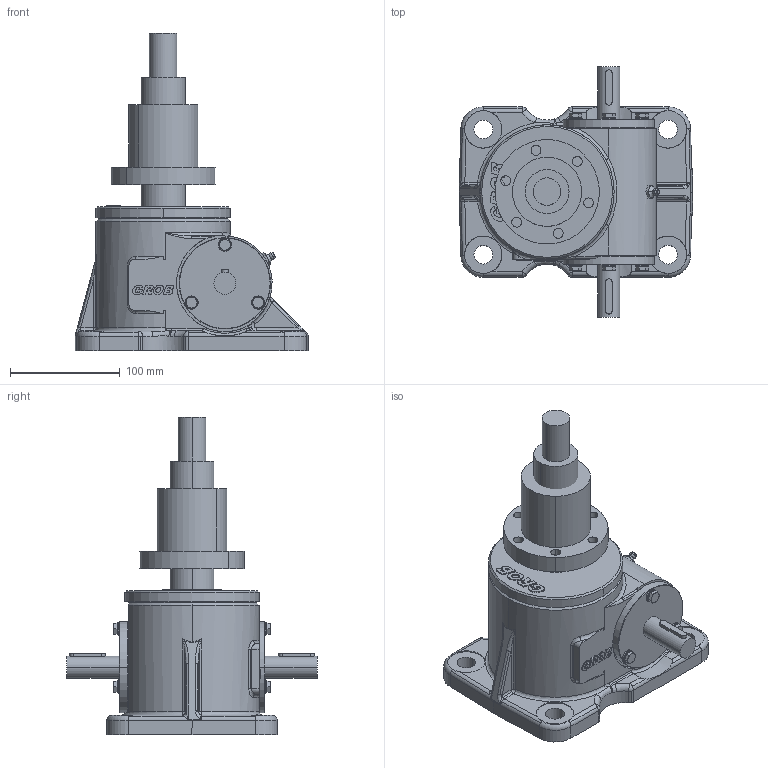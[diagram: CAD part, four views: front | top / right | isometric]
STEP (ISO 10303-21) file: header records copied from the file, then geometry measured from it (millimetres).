
FILE_DESCRIPTION(('STEP AP203'),'1');
FILE_NAME('mc5-lmn-f-1f-z-0005-0118-tr40x7-ab-mg0-o_ohne.stp','2023-12-20T14:55:51',('TraceParts'),('TraceParts S.A.'),'Spatial InterOp 3D',' ',' ');
FILE_SCHEMA(('CONFIG_CONTROL_DESIGN'));
Length unit declared in the file: millimetre
Products named in the file (1): 1
Bounding box: 212.6 x 228 x 289 mm (x, y, z)
Volume: 2852297.3 mm3; surface area: 218681.6 mm2
Topology: 3 solids, 3 shells, 746 faces, 1916 edges, 1210 vertices
Faces by surface type: cylinder 355, plane 224, cone 87, bspline 62, torus 12, sphere 6
Entity records: 24797 total; most frequent: CARTESIAN_POINT 6547, DIRECTION 3964, ORIENTED_EDGE 3792, EDGE_CURVE 1896, AXIS2_PLACEMENT_3D 1580, VERTEX_POINT 1210, EDGE_LOOP 836, LINE 804
